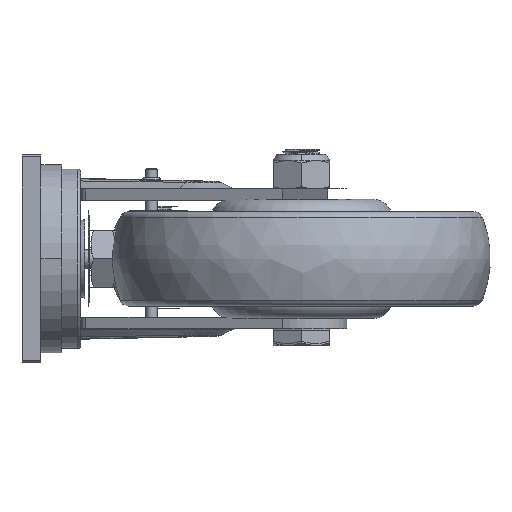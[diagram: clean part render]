
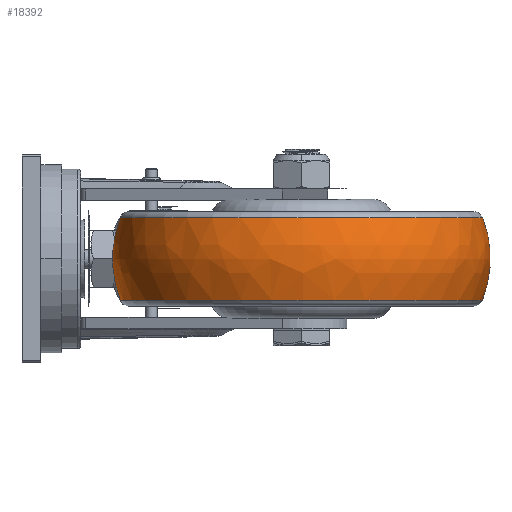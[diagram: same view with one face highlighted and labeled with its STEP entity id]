
A CAD part, left-side view. The second image highlights one B-rep face of the part: STEP entity #18392.
In plain terms, the highlighted free-form (B-spline) face has degree [3, 3] with [7, 4] control points.
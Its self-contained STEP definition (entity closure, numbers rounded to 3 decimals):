
#17842=CARTESIAN_POINT('',(-61.645,-177.998,0.));
#17843=DIRECTION('',(-1.,-0.009,0.));
#17844=DIRECTION('',(0.008,-0.932,-0.364));
#17845=AXIS2_PLACEMENT_3D('',#17842,#17843,#17844);
#17847=CARTESIAN_POINT('',(-62.355,-98.002,0.));
#17848=DIRECTION('',(1.,0.009,0.));
#17849=DIRECTION('',(-0.008,0.932,-0.364));
#17850=AXIS2_PLACEMENT_3D('',#17847,#17848,#17849);
#17857=CARTESIAN_POINT('',(-62.,-138.,-21.818));
#17858=DIRECTION('',(0.,0.,-1.));
#17859=DIRECTION('',(0.009,-1.,0.));
#17860=AXIS2_PLACEMENT_3D('',#17857,#17858,#17859);
#17862=CARTESIAN_POINT('',(-62.,-138.,21.818));
#17863=DIRECTION('',(0.,0.,-1.));
#17864=DIRECTION('',(0.009,-1.,0.));
#17865=AXIS2_PLACEMENT_3D('',#17862,#17863,#17864);
#18001=CARTESIAN_POINT('',(-61.148,-233.889,
-21.818));
#18003=VERTEX_POINT('',#18001);
#18004=CARTESIAN_POINT('',(-61.148,-233.889,
21.818));
#18005=VERTEX_POINT('',#18004);
#18033=CARTESIAN_POINT('',(-62.852,-42.111,
-21.818));
#18035=VERTEX_POINT('',#18033);
#18036=CARTESIAN_POINT('',(-62.852,-42.111,
21.818));
#18037=VERTEX_POINT('',#18036);
#18356=CARTESIAN_POINT('',(-55.153,-233.316,
22.648));
#18357=CARTESIAN_POINT('',(-54.723,-239.295,
7.941));
#18358=CARTESIAN_POINT('',(-54.723,-239.295,
-7.941));
#18359=CARTESIAN_POINT('',(-55.153,-233.316,
-22.648));
#18360=CARTESIAN_POINT('',(-113.81,-237.53,
22.648));
#18361=CARTESIAN_POINT('',(-117.06,-243.773,
7.941));
#18362=CARTESIAN_POINT('',(-117.06,-243.773,
-7.941));
#18363=CARTESIAN_POINT('',(-113.81,-237.53,
-22.648));
#18364=CARTESIAN_POINT('',(-157.035,-197.655,
22.648));
#18365=CARTESIAN_POINT('',(-162.997,-201.397,
7.941));
#18366=CARTESIAN_POINT('',(-162.997,-201.397,
-7.941));
#18367=CARTESIAN_POINT('',(-157.035,-197.655,
-22.648));
#18368=CARTESIAN_POINT('',(-157.558,-138.849,
22.648));
#18369=CARTESIAN_POINT('',(-163.552,-138.902,
7.941));
#18370=CARTESIAN_POINT('',(-163.552,-138.902,
-7.941));
#18371=CARTESIAN_POINT('',(-157.558,-138.849,
-22.648));
#18372=CARTESIAN_POINT('',(-158.08,-80.043,
22.648));
#18373=CARTESIAN_POINT('',(-164.107,-76.407,
7.941));
#18374=CARTESIAN_POINT('',(-164.107,-76.407,
-7.941));
#18375=CARTESIAN_POINT('',(-158.08,-80.043,
-22.648));
#18376=CARTESIAN_POINT('',(-115.57,-39.406,
22.648));
#18377=CARTESIAN_POINT('',(-118.93,-33.221,
7.941));
#18378=CARTESIAN_POINT('',(-118.93,-33.221,
-7.941));
#18379=CARTESIAN_POINT('',(-115.57,-39.406,
-22.648));
#18380=CARTESIAN_POINT('',(-56.847,-42.578,
22.648));
#18381=CARTESIAN_POINT('',(-56.524,-36.592,
7.941));
#18382=CARTESIAN_POINT('',(-56.524,-36.592,
-7.941));
#18383=CARTESIAN_POINT('',(-56.847,-42.578,
-22.648));
#18384=(BOUNDED_SURFACE()B_SPLINE_SURFACE(3,3,((#18356,#18357,#18358,#18359),(
#18360,#18361,#18362,#18363),(#18364,#18365,#18366,#18367),(#18368,#18369,
#18370,#18371),(#18372,#18373,#18374,#18375),(#18376,#18377,#18378,#18379),(
#18380,#18381,#18382,#18383)),.UNSPECIFIED.,.F.,.F.,.F.)B_SPLINE_SURFACE_WITH_KNOTS((4,3,4),(4,4),(0.,1.,2.),(0.,1.),.UNSPECIFIED.)GEOMETRIC_REPRESENTATION_ITEM()RATIONAL_B_SPLINE_SURFACE(((1.233,1.172,
1.172,1.233),(0.974,0.926,
0.926,0.974),(0.974,0.926,
0.926,0.974),(1.233,1.172,
1.172,1.233),(0.974,0.926,
0.926,0.974),(0.974,0.926,
0.926,0.974),(1.233,1.172,
1.172,1.233)))REPRESENTATION_ITEM('')SURFACE());
#18385=ORIENTED_EDGE('',*,*,#18339,.F.);
#18386=ORIENTED_EDGE('',*,*,#18278,.T.);
#18387=ORIENTED_EDGE('',*,*,#18343,.T.);
#18389=ORIENTED_EDGE('',*,*,#18388,.F.);
#18390=EDGE_LOOP('',(#18385,#18386,#18387,#18389));
#18391=FACE_OUTER_BOUND('',#18390,.F.);
#17846=CIRCLE('',#17845,60.);
#17851=CIRCLE('',#17850,60.);
#17861=CIRCLE('',#17860,95.892);
#17866=CIRCLE('',#17865,95.892);
#18278=EDGE_CURVE('',#18003,#18035,#17861,.T.);
#18339=EDGE_CURVE('',#18003,#18005,#17846,.T.);
#18343=EDGE_CURVE('',#18035,#18037,#17851,.T.);
#18388=EDGE_CURVE('',#18005,#18037,#17866,.T.);
#18392=ADVANCED_FACE('',(#18391),#18384,.T.);
